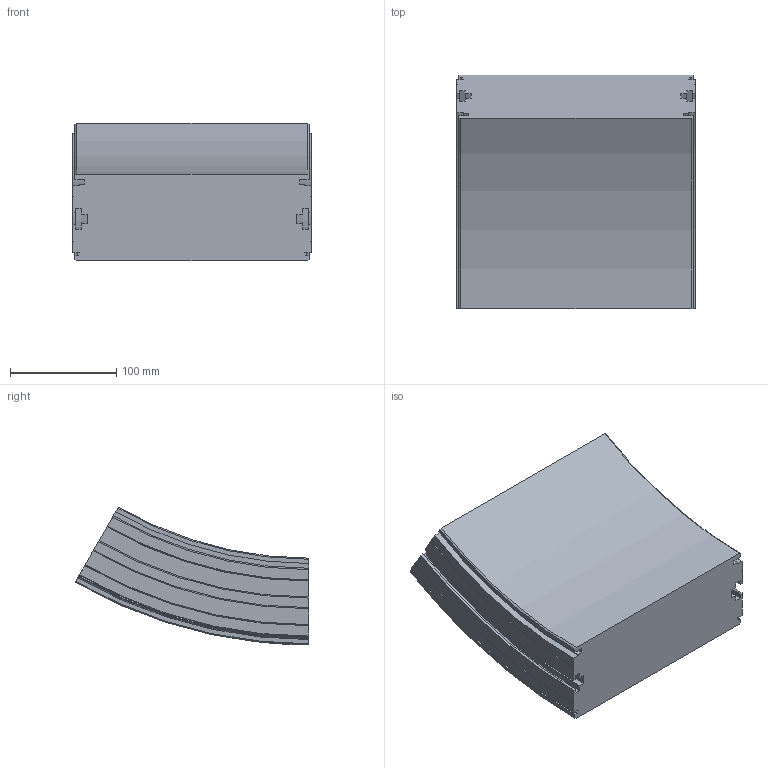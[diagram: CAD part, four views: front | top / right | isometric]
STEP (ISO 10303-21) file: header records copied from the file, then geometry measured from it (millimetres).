
FILE_DESCRIPTION(/* description */ ('VERTIKALKURVA S220 R400'),/* implementation_level */ '2;1');
FILE_NAME(/* name */ '\\carryline.intra\privat\users\mathias\Desktop\Tillfälliga filer\220-5645+220-2000-NER-01.stp',/* time_stamp */ '2018-11-29T13:26:08+01:00',/* author */ ('MD'),/* organization */ ('CARRYLINE'),/* preprocessor_version */ 'ST-DEVELOPER v17',/* originating_system */ 'Autodesk Inventor 2018',/* authorisation */ '');
FILE_SCHEMA (('AUTOMOTIVE_DESIGN { 1 0 10303 214 3 1 1 }'));
Length unit declared in the file: millimetre
Products named in the file (1): 220-5645+220-2000-NER-01
Bounding box: 224 x 219.75 x 129.46 mm (x, y, z)
Volume: 3695697.7 mm3; surface area: 192433.9 mm2
Topology: 1 solids, 1 shells, 113 faces, 318 edges, 212 vertices
Faces by surface type: plane 48, cylinder 31, bspline 14, cone 14, torus 6
Entity records: 8355 total; most frequent: CARTESIAN_POINT 5387, ORIENTED_EDGE 636, DIRECTION 576, EDGE_CURVE 318, VERTEX_POINT 212, AXIS2_PLACEMENT_3D 199, LINE 178, VECTOR 178
